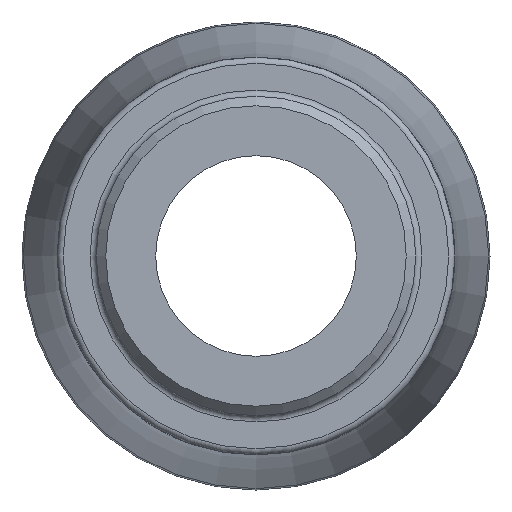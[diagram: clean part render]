
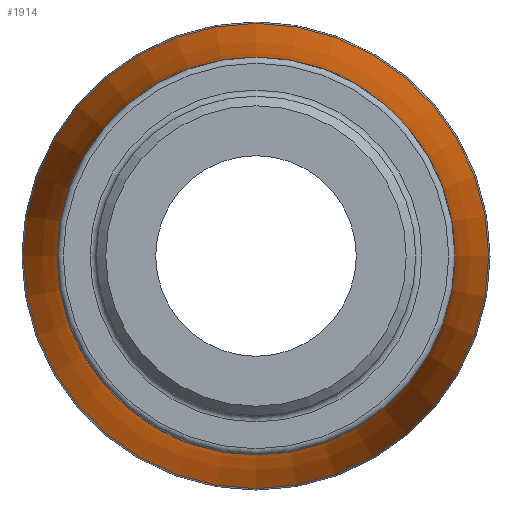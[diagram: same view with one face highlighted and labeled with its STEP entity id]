
A CAD part, left-side view. The second image highlights one B-rep face of the part: STEP entity #1914.
In plain terms, the highlighted toroidal (fillet/blend) face has major radius 203.106 mm and minor radius 173.356 mm.
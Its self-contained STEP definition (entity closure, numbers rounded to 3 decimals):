
#18=TOROIDAL_SURFACE('',#2162,203.106,173.356);
#363=FACE_OUTER_BOUND('',#478,.T.);
#478=EDGE_LOOP('',(#1798,#1799,#1800,#1801,#1802,#1803,#1804));
#668=CIRCLE('',#1943,29.75);
#669=CIRCLE('',#1944,29.75);
#670=CIRCLE('',#1945,29.75);
#737=CIRCLE('',#2043,34.796);
#738=CIRCLE('',#2044,34.796);
#785=CIRCLE('',#2163,173.356);
#791=VERTEX_POINT('',#2731);
#792=VERTEX_POINT('',#2732);
#793=VERTEX_POINT('',#2734);
#876=VERTEX_POINT('',#3236);
#877=VERTEX_POINT('',#3238);
#974=EDGE_CURVE('',#791,#792,#668,.T.);
#975=EDGE_CURVE('',#793,#791,#669,.T.);
#977=EDGE_CURVE('',#792,#793,#670,.T.);
#1084=EDGE_CURVE('',#876,#877,#737,.T.);
#1085=EDGE_CURVE('',#877,#876,#738,.T.);
#1246=EDGE_CURVE('',#792,#876,#785,.T.);
#1798=ORIENTED_EDGE('',*,*,#974,.T.);
#1799=ORIENTED_EDGE('',*,*,#1246,.T.);
#1800=ORIENTED_EDGE('',*,*,#1085,.F.);
#1801=ORIENTED_EDGE('',*,*,#1084,.F.);
#1802=ORIENTED_EDGE('',*,*,#1246,.F.);
#1803=ORIENTED_EDGE('',*,*,#977,.T.);
#1804=ORIENTED_EDGE('',*,*,#975,.T.);
#1914=ADVANCED_FACE('',(#363),#18,.F.);
#1943=AXIS2_PLACEMENT_3D('',#2733,#2183,#2184);
#1944=AXIS2_PLACEMENT_3D('',#2735,#2185,#2186);
#1945=AXIS2_PLACEMENT_3D('',#2737,#2188,#2189);
#2043=AXIS2_PLACEMENT_3D('',#3239,#2408,#2409);
#2044=AXIS2_PLACEMENT_3D('',#3240,#2410,#2411);
#2162=AXIS2_PLACEMENT_3D('',#4202,#2712,#2713);
#2163=AXIS2_PLACEMENT_3D('',#4203,#2714,#2715);
#2183=DIRECTION('center_axis',(1.,0.,0.));
#2184=DIRECTION('ref_axis',(0.,0.,-1.));
#2185=DIRECTION('center_axis',(1.,0.,0.));
#2186=DIRECTION('ref_axis',(0.,0.,-1.));
#2188=DIRECTION('center_axis',(1.,0.,0.));
#2189=DIRECTION('ref_axis',(0.,0.,-1.));
#2408=DIRECTION('center_axis',(1.,0.,0.));
#2409=DIRECTION('ref_axis',(0.,-1.,0.));
#2410=DIRECTION('center_axis',(1.,0.,0.));
#2411=DIRECTION('ref_axis',(0.,-1.,0.));
#2712=DIRECTION('center_axis',(1.,0.,0.));
#2713=DIRECTION('ref_axis',(0.,0.,-1.));
#2714=DIRECTION('center_axis',(0.,-1.,0.));
#2715=DIRECTION('ref_axis',(0.,0.,1.));
#2731=CARTESIAN_POINT('',(69.,29.75,0.));
#2732=CARTESIAN_POINT('',(69.,0.,29.75));
#2733=CARTESIAN_POINT('Origin',(69.,0.,0.));
#2734=CARTESIAN_POINT('',(69.,-29.75,0.));
#2735=CARTESIAN_POINT('Origin',(69.,0.,0.));
#2737=CARTESIAN_POINT('Origin',(69.,0.,0.));
#3236=CARTESIAN_POINT('',(110.523,0.,34.796));
#3238=CARTESIAN_POINT('',(110.523,34.796,0.));
#3239=CARTESIAN_POINT('Origin',(110.523,0.,0.));
#3240=CARTESIAN_POINT('Origin',(110.523,0.,0.));
#4202=CARTESIAN_POINT('Origin',(69.,0.,0.));
#4203=CARTESIAN_POINT('Origin',(69.,0.,203.106));
